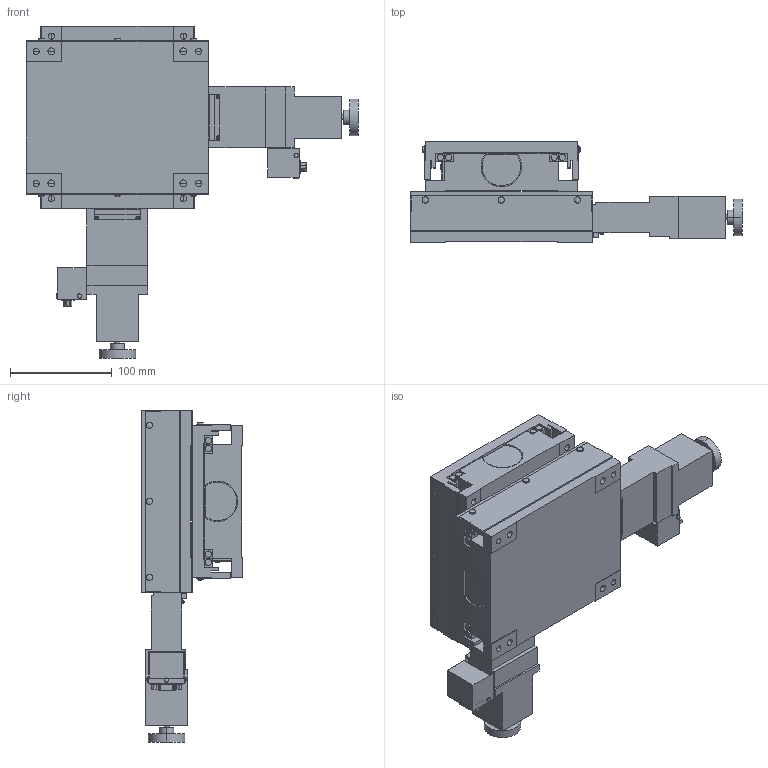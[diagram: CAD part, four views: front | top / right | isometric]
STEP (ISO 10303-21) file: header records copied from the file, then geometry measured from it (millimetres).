
FILE_DESCRIPTION (( 'STEP AP203' ), '1' );
FILE_NAME ('ALD-510-H2P.STEP', '2008-03-11T09:06:35', ( '' ), ( '' ), 'SwSTEP 2.0', 'SolidWorks 2007', '' );
FILE_SCHEMA (( 'CONFIG_CONTROL_DESIGN' ));
Length unit declared in the file: millimetre
Products named in the file (4): ALD-510-H2P; ALD-510-H2P-3_蹬怮椔; ALD-510-H2P-2_蹬怮椔; ALD-510-H2P-1_蹬怮椔
Assembly tree (3 placements, depth 2):
  ALD-510-H2P
    ALD-510-H2P-3_蹬怮椔
    ALD-510-H2P-2_蹬怮椔
    ALD-510-H2P-1_蹬怮椔
Bounding box: 327 x 100 x 327 mm (x, y, z)
Volume: 2968305.9 mm3; surface area: 420936.7 mm2
Topology: 3 solids, 13 shells, 876 faces, 2154 edges, 1428 vertices
Faces by surface type: plane 440, cylinder 358, cone 44, bspline 18, sphere 8, torus 8
Entity records: 30232 total; most frequent: CARTESIAN_POINT 8154, DIRECTION 4638, ORIENTED_EDGE 4308, EDGE_CURVE 2154, AXIS2_PLACEMENT_3D 1656, VERTEX_POINT 1428, VECTOR 1326, LINE 1326
